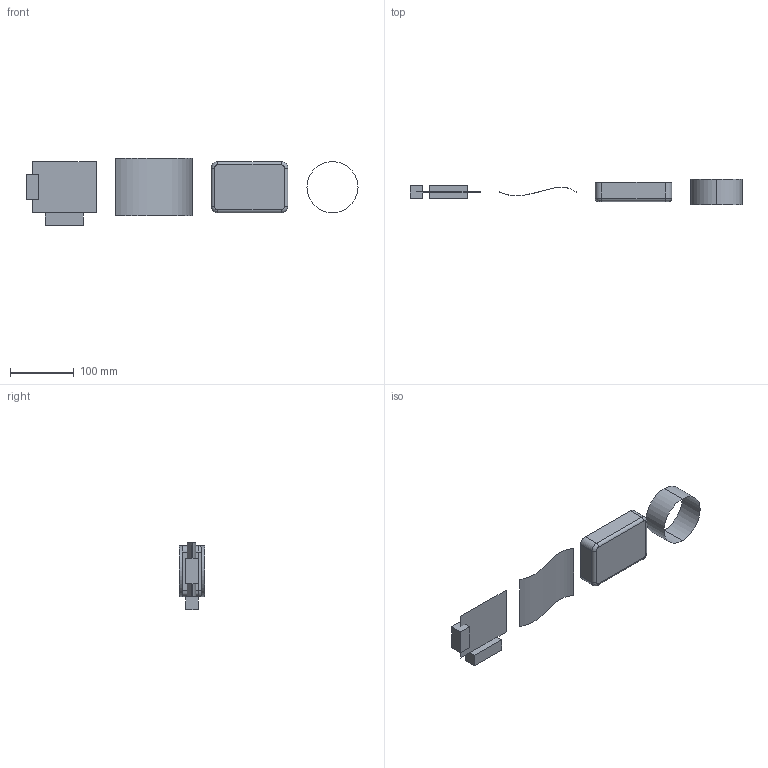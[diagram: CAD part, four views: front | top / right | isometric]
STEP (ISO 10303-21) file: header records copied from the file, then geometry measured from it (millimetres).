
FILE_DESCRIPTION (( 'STEP AP203' ), '1' );
FILE_NAME ('23.1.STEP', '2025-11-01T20:52:46', ( '' ), ( '' ), 'SwSTEP 2.0', 'SolidWorks 2025', '' );
FILE_SCHEMA (( 'CONFIG_CONTROL_DESIGN' ));
Length unit declared in the file: millimetre
Products named in the file (1): 23.1
Bounding box: 520 x 40 x 105 mm (x, y, z)
Surface area: 58995.1 mm2 (no closed solid volume)
Topology: 0 solids, 7 shells, 33 faces, 80 edges, 56 vertices
Faces by surface type: plane 18, cylinder 10, torus 4, bspline 1
Entity records: 1037 total; most frequent: CARTESIAN_POINT 187, DIRECTION 168, ORIENTED_EDGE 136, EDGE_CURVE 80, AXIS2_PLACEMENT_3D 57, VERTEX_POINT 56, VECTOR 54, LINE 54
